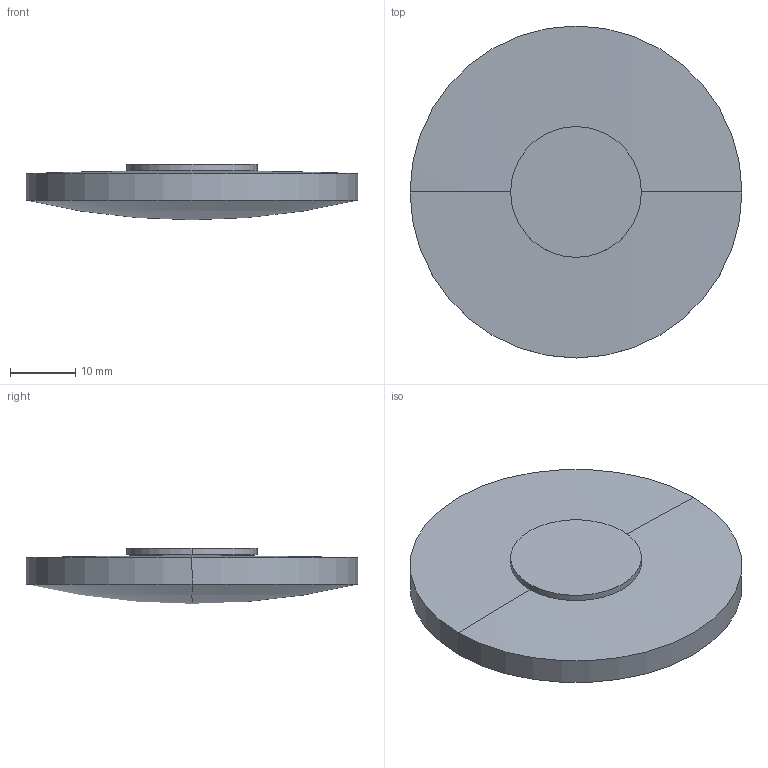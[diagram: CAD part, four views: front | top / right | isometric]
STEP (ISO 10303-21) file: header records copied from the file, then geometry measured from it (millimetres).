
FILE_DESCRIPTION(('STEP AP214'),'1');
FILE_NAME('LLV-51190.STEP','2020-03-09T17:42:26',(' '),(' '),'Spatial InterOp 3D',' ',' ');
FILE_SCHEMA(('AUTOMOTIVE_DESIGN { 1 0 10303 214 1 1 1 1 }'));
Length unit declared in the file: millimetre
Products named in the file (1): 1
Bounding box: 50.8 x 50.8 x 8.5 mm (x, y, z)
Volume: 12049.9 mm3; surface area: 5422.8 mm2
Topology: 2 solids, 2 shells, 10 faces, 20 edges, 10 vertices
Faces by surface type: sphere 4, cylinder 4, plane 2
Entity records: 255 total; most frequent: DIRECTION 52, CARTESIAN_POINT 38, ORIENTED_EDGE 32, AXIS2_PLACEMENT_3D 24, EDGE_CURVE 16, CIRCLE 12, ADVANCED_FACE 10, FACE_OUTER_BOUND 10
